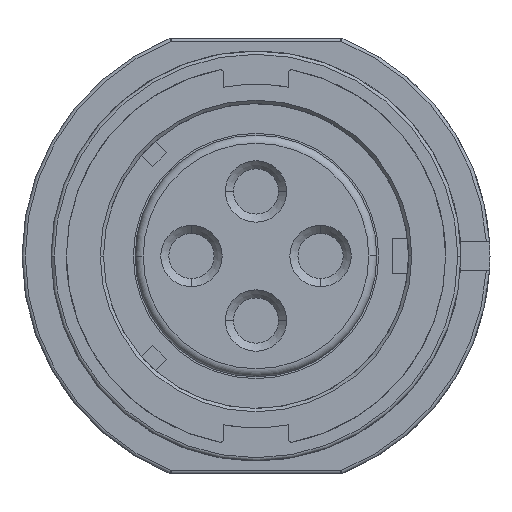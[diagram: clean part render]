
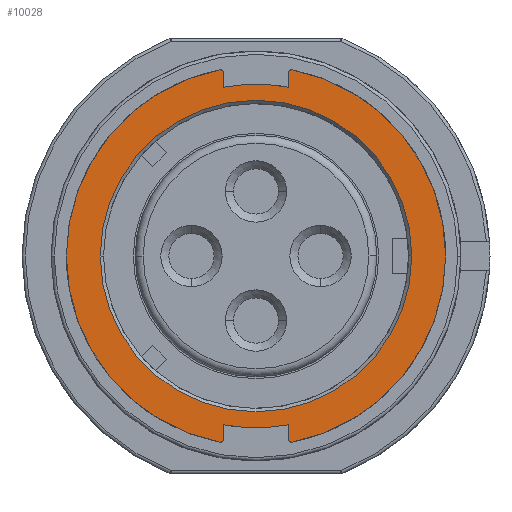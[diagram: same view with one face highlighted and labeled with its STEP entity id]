
A CAD part, left-side view. The second image highlights one B-rep face of the part: STEP entity #10028.
In plain terms, the highlighted planar face has unit normal (-1, 0, 0).
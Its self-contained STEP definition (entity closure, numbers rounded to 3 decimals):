
#3450=CARTESIAN_POINT('',(1.7,-2.2,11.339));
#3451=DIRECTION('',(1.,0.,0.));
#3452=DIRECTION('',(0.,1.,0.));
#3453=AXIS2_PLACEMENT_3D('',#3450,#3451,#3452);
#3455=CARTESIAN_POINT('',(1.7,0.,0.));
#3456=DIRECTION('',(1.,0.,0.));
#3457=DIRECTION('',(0.,-0.19,0.982));
#3458=AXIS2_PLACEMENT_3D('',#3455,#3456,#3457);
#3460=CARTESIAN_POINT('',(1.7,-2.2,-11.339));
#3461=DIRECTION('',(1.,0.,0.));
#3462=DIRECTION('',(0.,-0.19,-0.982));
#3463=AXIS2_PLACEMENT_3D('',#3460,#3461,#3462);
#3465=DIRECTION('',(0.,0.,1.));
#3466=VECTOR('',#3465,0.878);
#3467=CARTESIAN_POINT('',(1.7,-2.,-11.339));
#3468=LINE('',#3467,#3466);
#3469=CARTESIAN_POINT('',(1.7,0.,0.));
#3470=DIRECTION('',(1.,0.,0.));
#3471=DIRECTION('',(0.,-0.188,-0.982));
#3472=AXIS2_PLACEMENT_3D('',#3469,#3470,#3471);
#3474=CARTESIAN_POINT('',(1.7,2.2,-11.339));
#3475=DIRECTION('',(1.,0.,0.));
#3476=DIRECTION('',(0.,-1.,0.));
#3477=AXIS2_PLACEMENT_3D('',#3474,#3475,#3476);
#3479=CARTESIAN_POINT('',(1.7,0.,0.));
#3480=DIRECTION('',(1.,0.,0.));
#3481=DIRECTION('',(0.,0.19,-0.982));
#3482=AXIS2_PLACEMENT_3D('',#3479,#3480,#3481);
#3484=CARTESIAN_POINT('',(1.7,2.2,11.339));
#3485=DIRECTION('',(1.,0.,0.));
#3486=DIRECTION('',(0.,0.19,0.982));
#3487=AXIS2_PLACEMENT_3D('',#3484,#3485,#3486);
#3489=CARTESIAN_POINT('',(1.7,0.,0.));
#3490=DIRECTION('',(1.,0.,0.));
#3491=DIRECTION('',(0.,0.188,0.982));
#3492=AXIS2_PLACEMENT_3D('',#3489,#3490,#3491);
#3535=DIRECTION('',(0.,0.,-1.));
#3536=VECTOR('',#3535,0.878);
#3537=CARTESIAN_POINT('',(1.7,-2.,11.339));
#3538=LINE('',#3537,#3536);
#3568=DIRECTION('',(0.,0.,1.));
#3569=VECTOR('',#3568,0.878);
#3570=CARTESIAN_POINT('',(1.7,2.,10.461));
#3571=LINE('',#3570,#3569);
#3596=DIRECTION('',(0.,0.,1.));
#3597=VECTOR('',#3596,0.878);
#3598=CARTESIAN_POINT('',(1.7,2.,-11.339));
#3599=LINE('',#3598,#3597);
#3901=CARTESIAN_POINT('',(1.7,0.,0.));
#3902=DIRECTION('',(1.,0.,0.));
#3903=DIRECTION('',(0.,-1.,0.));
#3904=AXIS2_PLACEMENT_3D('',#3901,#3902,#3903);
#3911=CARTESIAN_POINT('',(1.7,0.,0.));
#3912=DIRECTION('',(1.,0.,0.));
#3913=DIRECTION('',(0.,1.,0.));
#3914=AXIS2_PLACEMENT_3D('',#3911,#3912,#3913);
#5541=CARTESIAN_POINT('',(1.7,-2.,-11.339));
#5542=VERTEX_POINT('',#5541);
#5543=CARTESIAN_POINT('',(1.7,-2.,11.339));
#5544=CARTESIAN_POINT('',(1.7,-2.238,11.535));
#5545=VERTEX_POINT('',#5543);
#5546=VERTEX_POINT('',#5544);
#5547=CARTESIAN_POINT('',(1.7,-2.238,-11.535));
#5548=VERTEX_POINT('',#5547);
#5549=CARTESIAN_POINT('',(1.7,-2.,-10.461));
#5550=VERTEX_POINT('',#5549);
#5551=CARTESIAN_POINT('',(1.7,2.,-10.461));
#5552=VERTEX_POINT('',#5551);
#5553=CARTESIAN_POINT('',(1.7,2.,-11.339));
#5554=CARTESIAN_POINT('',(1.7,2.238,-11.535));
#5555=VERTEX_POINT('',#5553);
#5556=VERTEX_POINT('',#5554);
#5557=CARTESIAN_POINT('',(1.7,2.238,11.535));
#5558=VERTEX_POINT('',#5557);
#5559=CARTESIAN_POINT('',(1.7,2.,11.339));
#5560=VERTEX_POINT('',#5559);
#5561=CARTESIAN_POINT('',(1.7,2.,10.461));
#5562=VERTEX_POINT('',#5561);
#5563=CARTESIAN_POINT('',(1.7,-2.,10.461));
#5564=VERTEX_POINT('',#5563);
#5629=CARTESIAN_POINT('',(1.7,-9.65,
0.));
#5631=VERTEX_POINT('',#5629);
#5634=CARTESIAN_POINT('',(1.7,9.65,
0.));
#5636=VERTEX_POINT('',#5634);
#9993=CARTESIAN_POINT('',(1.7,0.,0.));
#9994=DIRECTION('',(1.,0.,0.));
#9995=DIRECTION('',(0.,1.,0.));
#9996=AXIS2_PLACEMENT_3D('',#9993,#9994,#9995);
#9997=PLANE('',#9996);
#9999=ORIENTED_EDGE('',*,*,#9998,.T.);
#10001=ORIENTED_EDGE('',*,*,#10000,.T.);
#10002=ORIENTED_EDGE('',*,*,#9986,.T.);
#10003=ORIENTED_EDGE('',*,*,#9974,.T.);
#10005=ORIENTED_EDGE('',*,*,#10004,.T.);
#10007=ORIENTED_EDGE('',*,*,#10006,.F.);
#10009=ORIENTED_EDGE('',*,*,#10008,.T.);
#10011=ORIENTED_EDGE('',*,*,#10010,.T.);
#10013=ORIENTED_EDGE('',*,*,#10012,.T.);
#10015=ORIENTED_EDGE('',*,*,#10014,.F.);
#10017=ORIENTED_EDGE('',*,*,#10016,.T.);
#10019=ORIENTED_EDGE('',*,*,#10018,.F.);
#10020=EDGE_LOOP('',(#9999,#10001,#10002,#10003,#10005,#10007,#10009,#10011,
#10013,#10015,#10017,#10019));
#10021=FACE_OUTER_BOUND('',#10020,.F.);
#10023=ORIENTED_EDGE('',*,*,#10022,.F.);
#10025=ORIENTED_EDGE('',*,*,#10024,.F.);
#10026=EDGE_LOOP('',(#10023,#10025));
#10027=FACE_BOUND('',#10026,.F.);
#3454=CIRCLE('',#3453,0.2);
#3459=CIRCLE('',#3458,11.75);
#3464=CIRCLE('',#3463,0.2);
#3473=CIRCLE('',#3472,10.65);
#3478=CIRCLE('',#3477,0.2);
#3483=CIRCLE('',#3482,11.75);
#3488=CIRCLE('',#3487,0.2);
#3493=CIRCLE('',#3492,10.65);
#3905=CIRCLE('',#3904,9.65);
#3915=CIRCLE('',#3914,9.65);
#9974=EDGE_CURVE('',#5542,#5550,#3468,.T.);
#9986=EDGE_CURVE('',#5548,#5542,#3464,.T.);
#9998=EDGE_CURVE('',#5545,#5546,#3454,.T.);
#10000=EDGE_CURVE('',#5546,#5548,#3459,.T.);
#10004=EDGE_CURVE('',#5550,#5552,#3473,.T.);
#10006=EDGE_CURVE('',#5555,#5552,#3599,.T.);
#10008=EDGE_CURVE('',#5555,#5556,#3478,.T.);
#10010=EDGE_CURVE('',#5556,#5558,#3483,.T.);
#10012=EDGE_CURVE('',#5558,#5560,#3488,.T.);
#10014=EDGE_CURVE('',#5562,#5560,#3571,.T.);
#10016=EDGE_CURVE('',#5562,#5564,#3493,.T.);
#10018=EDGE_CURVE('',#5545,#5564,#3538,.T.);
#10022=EDGE_CURVE('',#5631,#5636,#3905,.T.);
#10024=EDGE_CURVE('',#5636,#5631,#3915,.T.);
#10028=ADVANCED_FACE('',(#10021,#10027),#9997,.F.);
